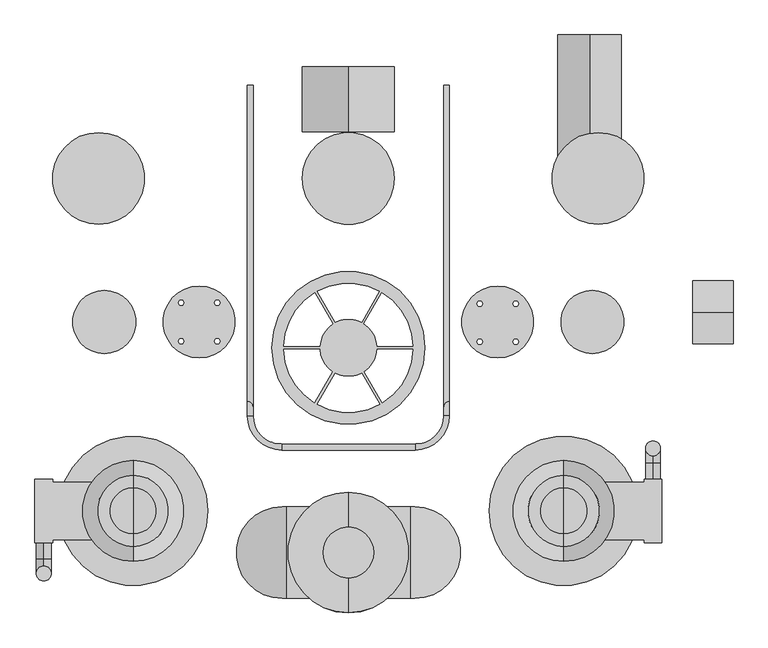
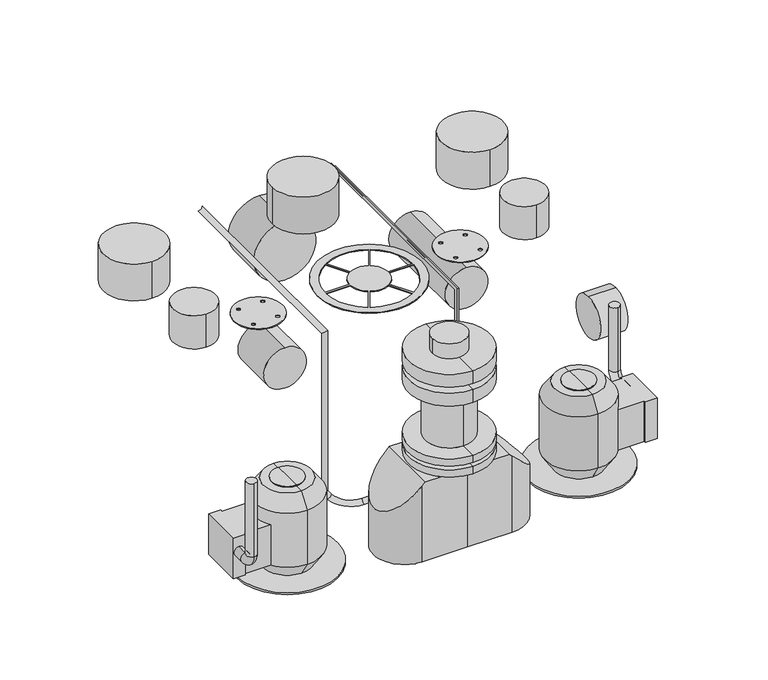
"""IFC4 building model written with IfcOpenShell, lengths in millimetres: unitary equipment geometry, ME_PE_UN_Muli Nova DDP_ACO : Muli-Nova DDP1.1."""

from ifc_helpers import new_model, si_unit, point, frame, frame_2d, origin, place, context, project, spatial, polyline, circle_curve, ellipse_curve, trimmed, segment, composite_curve, outline, extrude, source, transform, mapped, element, save
from ifc_brep_helpers import plane_surface, cylinder_surface, revolved_surface, advanced_brep


def unitary_equipment_b6e841b5(model_context):
    return source(origin(), model_context, "Body", "SolidModel", [
        extrude(outline(composite_curve([segment(trimmed(circle_curve(frame_2d((300.0, 420.0)), 55.0), [point((245.0, 420.0))], [point((355.0, 420.0))], False, "CARTESIAN"), True, "CONTINUOUS"), segment(trimmed(circle_curve(frame_2d((300.0, 420.0)), 55.0), [point((355.0, 420.0))], [point((245.0, 420.0))], False, "CARTESIAN"), True, "CONTINUOUS")], self_intersect=False)), frame((0.0, 315.5, 0.0), z_axis=(0.0, 1.0, 0.0), x_axis=(0.0, 0.0, 1.0)), (0.0, 0.0, 1.0), 250.0),
        extrude(outline(composite_curve([segment(trimmed(circle_curve(frame_2d((0.0, -336.0)), 44.0), [point((-44.0, -336.0))], [point((44.0, -336.0))], False, "CARTESIAN"), True, "CONTINUOUS"), segment(trimmed(circle_curve(frame_2d((0.0, -336.0)), 44.0), [point((44.0, -336.0))], [point((-44.0, -336.0))], False, "CARTESIAN"), True, "CONTINUOUS")], self_intersect=False)), frame((0.0, 0.0, 680.0), z_axis=(0.0, 0.0, 1.0), x_axis=(1.0, 0.0, 0.0)), (0.0, 0.0, 1.0), 40.3829898),
        extrude(outline(composite_curve([segment(trimmed(circle_curve(frame_2d((82.5, 300.0)), 55.0), [point((82.5, 245.0))], [point((82.5, 355.0))], False, "CARTESIAN"), True, "CONTINUOUS"), segment(trimmed(circle_curve(frame_2d((82.5, 300.0)), 55.0), [point((82.5, 355.0))], [point((82.5, 245.0))], False, "CARTESIAN"), True, "CONTINUOUS")], self_intersect=False)), frame((600.0, 0.0, 0.0), z_axis=(1.0, 0.0, 0.0), x_axis=(0.0, 1.0, 0.0)), (0.0, 0.0, 1.0), 70.0),
        advanced_brep(
        [(-68.0073525, -416.0, 400.0), (-68.0073525, -256.0, 400.0), (-107.6511579, -256.0, 400.0), (-107.6511579, -416.0, 400.0), (68.0073525, -256.0, 400.0), (68.0073525, -416.0, 400.0), (107.6511579, -416.0, 400.0), (107.6511579, -256.0, 400.0), (-115.2927384, -416.0, 185.0), (-115.2927384, -256.0, 185.0), (0.0, -256.0, 185.0), (115.2927384, -256.0, 185.0), (115.2927384, -416.0, 185.0), (0.0, -416.0, 185.0), (0.0, -231.0, 645.0), (0.0, -441.0, 645.0), (0.0, -441.0, 680.0), (0.0, -231.0, 680.0), (0.0, -260.5, 645.0), (0.0, -411.5, 645.0), (0.0, -260.5, 629.0), (0.0, -411.5, 629.0), (0.0, -231.0, 629.0), (0.0, -441.0, 629.0), (0.0, -231.0, 594.0), (0.0, -441.0, 594.0), (0.0, -273.5, 594.0), (0.0, -398.5, 594.0), (0.0, -273.5, 450.0), (0.0, -398.5, 450.0), (0.0, -231.0, 450.0), (0.0, -441.0, 450.0), (0.0, -231.0, 430.0), (0.0, -441.0, 430.0), (0.0, -273.5, 430.0), (0.0, -398.5, 430.0), (0.0, -273.5, 420.0), (0.0, -398.5, 420.0), (0.0, -231.0, 420.0), (0.0, -441.0, 420.0), (0.0, -231.0, 400.0), (0.0, -441.0, 400.0), (0.0, -416.0, 400.0), (0.0, -256.0, 400.0), (0.0, -336.0, 680.0), (-115.2927384, -416.0, 392.3584195), (-115.2927384, -256.0, 392.3584195), (115.2927384, -416.0, 392.3584195), (115.2927384, -256.0, 392.3584195)],
        [
            (0, 1, circle_curve(frame((0.0, -336.0, 400.0), z_axis=(0.0, 0.0, -1.0), x_axis=(0.0, -1.0, 0.0)), 105.0)),
            (1, 2),
            (2, 3),
            (3, 0),
            (4, 5, circle_curve(frame((0.0, -336.0, 400.0), z_axis=(0.0, 0.0, -1.0), x_axis=(0.0, -1.0, 0.0)), 105.0)),
            (5, 6),
            (6, 7),
            (7, 4),
            (8, 9, circle_curve(frame((-115.2927384, -336.0, 185.0), z_axis=(0.0, 0.0, -1.0), x_axis=(-1.0, 0.0, 0.0)), 80.0)),
            (9, 10),
            (10, 11),
            (11, 12, circle_curve(frame((115.2927384, -336.0, 185.0), z_axis=(0.0, 0.0, -1.0), x_axis=(-1.0, 0.0, 0.0)), 80.0)),
            (12, 13),
            (13, 8),
            (14, 15, circle_curve(frame((0.0, -336.0, 645.0), z_axis=(0.0, 0.0, 1.0), x_axis=(0.0, -1.0, 0.0)), 105.0)),
            (15, 16),
            (16, 17, circle_curve(frame((0.0, -336.0, 680.0), z_axis=(0.0, 0.0, -1.0), x_axis=(0.0, -1.0, 0.0)), 105.0)),
            (17, 14),
            (15, 14, circle_curve(frame((0.0, -336.0, 645.0), z_axis=(0.0, 0.0, 1.0), x_axis=(0.0, -1.0, 0.0)), 105.0)),
            (17, 16, circle_curve(frame((0.0, -336.0, 680.0), z_axis=(0.0, 0.0, -1.0), x_axis=(0.0, -1.0, 0.0)), 105.0)),
            (14, 18),
            (18, 19, circle_curve(frame((0.0, -336.0, 645.0), z_axis=(0.0, 0.0, 1.0), x_axis=(0.0, -1.0, 0.0)), 75.5)),
            (19, 15),
            (19, 18, circle_curve(frame((0.0, -336.0, 645.0), z_axis=(0.0, 0.0, 1.0), x_axis=(0.0, -1.0, 0.0)), 75.5)),
            (18, 20),
            (20, 21, circle_curve(frame((0.0, -336.0, 629.0), z_axis=(0.0, 0.0, 1.0), x_axis=(0.0, -1.0, 0.0)), 75.5)),
            (21, 19),
            (21, 20, circle_curve(frame((0.0, -336.0, 629.0), z_axis=(0.0, 0.0, 1.0), x_axis=(0.0, -1.0, 0.0)), 75.5)),
            (20, 22),
            (22, 23, circle_curve(frame((0.0, -336.0, 629.0), z_axis=(0.0, 0.0, 1.0), x_axis=(0.0, -1.0, 0.0)), 105.0)),
            (23, 21),
            (23, 22, circle_curve(frame((0.0, -336.0, 629.0), z_axis=(0.0, 0.0, 1.0), x_axis=(0.0, -1.0, 0.0)), 105.0)),
            (22, 24),
            (24, 25, circle_curve(frame((0.0, -336.0, 594.0), z_axis=(0.0, 0.0, 1.0), x_axis=(0.0, -1.0, 0.0)), 105.0)),
            (25, 23),
            (25, 24, circle_curve(frame((0.0, -336.0, 594.0), z_axis=(0.0, 0.0, 1.0), x_axis=(0.0, -1.0, 0.0)), 105.0)),
            (24, 26),
            (26, 27, circle_curve(frame((0.0, -336.0, 594.0), z_axis=(0.0, 0.0, 1.0), x_axis=(0.0, -1.0, 0.0)), 62.5)),
            (27, 25),
            (27, 26, circle_curve(frame((0.0, -336.0, 594.0), z_axis=(0.0, 0.0, 1.0), x_axis=(0.0, -1.0, 0.0)), 62.5)),
            (26, 28),
            (28, 29, circle_curve(frame((0.0, -336.0, 450.0), z_axis=(0.0, 0.0, 1.0), x_axis=(0.0, -1.0, 0.0)), 62.5)),
            (29, 27),
            (29, 28, circle_curve(frame((0.0, -336.0, 450.0), z_axis=(0.0, 0.0, 1.0), x_axis=(0.0, -1.0, 0.0)), 62.5)),
            (28, 30),
            (30, 31, circle_curve(frame((0.0, -336.0, 450.0), z_axis=(0.0, 0.0, 1.0), x_axis=(0.0, -1.0, 0.0)), 105.0)),
            (31, 29),
            (31, 30, circle_curve(frame((0.0, -336.0, 450.0), z_axis=(0.0, 0.0, 1.0), x_axis=(0.0, -1.0, 0.0)), 105.0)),
            (30, 32),
            (32, 33, circle_curve(frame((0.0, -336.0, 430.0), z_axis=(0.0, 0.0, 1.0), x_axis=(0.0, -1.0, 0.0)), 105.0)),
            (33, 31),
            (33, 32, circle_curve(frame((0.0, -336.0, 430.0), z_axis=(0.0, 0.0, 1.0), x_axis=(0.0, -1.0, 0.0)), 105.0)),
            (32, 34),
            (34, 35, circle_curve(frame((0.0, -336.0, 430.0), z_axis=(0.0, 0.0, 1.0), x_axis=(0.0, -1.0, 0.0)), 62.5)),
            (35, 33),
            (35, 34, circle_curve(frame((0.0, -336.0, 430.0), z_axis=(0.0, 0.0, 1.0), x_axis=(0.0, -1.0, 0.0)), 62.5)),
            (34, 36),
            (36, 37, circle_curve(frame((0.0, -336.0, 420.0), z_axis=(0.0, 0.0, 1.0), x_axis=(0.0, -1.0, 0.0)), 62.5)),
            (37, 35),
            (37, 36, circle_curve(frame((0.0, -336.0, 420.0), z_axis=(0.0, 0.0, 1.0), x_axis=(0.0, -1.0, 0.0)), 62.5)),
            (36, 38),
            (38, 39, circle_curve(frame((0.0, -336.0, 420.0), z_axis=(0.0, 0.0, 1.0), x_axis=(0.0, -1.0, 0.0)), 105.0)),
            (39, 37),
            (39, 38, circle_curve(frame((0.0, -336.0, 420.0), z_axis=(0.0, 0.0, 1.0), x_axis=(0.0, -1.0, 0.0)), 105.0)),
            (38, 40),
            (40, 1, circle_curve(frame((0.0, -336.0, 400.0), z_axis=(0.0, 0.0, 1.0), x_axis=(0.0, -1.0, 0.0)), 105.0)),
            (0, 41, circle_curve(frame((0.0, -336.0, 400.0), z_axis=(0.0, 0.0, 1.0), x_axis=(0.0, -1.0, 0.0)), 105.0)),
            (41, 39),
            (41, 5, circle_curve(frame((0.0, -336.0, 400.0), z_axis=(0.0, 0.0, 1.0), x_axis=(0.0, -1.0, 0.0)), 105.0)),
            (4, 40, circle_curve(frame((0.0, -336.0, 400.0), z_axis=(0.0, 0.0, 1.0), x_axis=(0.0, -1.0, 0.0)), 105.0)),
            (0, 42),
            (42, 41),
            (40, 43),
            (43, 1),
            (4, 43),
            (42, 5),
            (16, 44),
            (44, 17),
            (13, 42),
            (3, 45),
            (45, 8),
            (9, 46),
            (46, 2),
            (43, 10),
            (45, 46, ellipse_curve(frame((-115.2927384, -336.0, 392.3584195), z_axis=(0.7071067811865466, 0.0, -0.7071067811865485), x_axis=(0.7071067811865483, 0.0, 0.7071067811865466)), 113.137085, 80.0)),
            (12, 47),
            (47, 6),
            (11, 48),
            (48, 47, ellipse_curve(frame((115.2927384, -336.0, 392.3584195), z_axis=(-0.7071067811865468, 0.0, -0.7071067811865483), x_axis=(-0.7071067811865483, 0.0, 0.7071067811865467)), 113.137085, 80.0)),
            (7, 48),
        ],
        [
            plane_surface(frame((-137.7927384, -416.0, 400.0), z_axis=(0.0, 0.0, 1.0), x_axis=(1.0, 0.0, 0.0))),
            plane_surface(frame((-137.7927384, -416.0, 185.0), z_axis=(0.0, 0.0, -1.0), x_axis=(-1.0, 0.0, 0.0))),
            cylinder_surface(frame((0.0, -336.0, 585.0), z_axis=(0.0, 0.0, -1.0), x_axis=(0.0, -1.0, 0.0)), 105.0),
            plane_surface(frame((0.0, -336.0, 645.0), z_axis=(0.0, 0.0, -1.0), x_axis=(0.0, -1.0, 0.0))),
            cylinder_surface(frame((0.0, -336.0, 585.0), z_axis=(0.0, 0.0, -1.0), x_axis=(0.0, -1.0, 0.0)), 75.5),
            plane_surface(frame((0.0, -336.0, 629.0), z_axis=(0.0, 0.0, 1.0), x_axis=(0.0, -1.0, 0.0))),
            plane_surface(frame((0.0, -336.0, 594.0), z_axis=(0.0, 0.0, -1.0), x_axis=(0.0, -1.0, 0.0))),
            cylinder_surface(frame((0.0, -336.0, 585.0), z_axis=(0.0, 0.0, -1.0), x_axis=(0.0, -1.0, 0.0)), 62.5),
            plane_surface(frame((0.0, -336.0, 450.0), z_axis=(0.0, 0.0, 1.0), x_axis=(0.0, -1.0, 0.0))),
            plane_surface(frame((0.0, -336.0, 430.0), z_axis=(0.0, 0.0, -1.0), x_axis=(0.0, -1.0, 0.0))),
            plane_surface(frame((0.0, -336.0, 420.0), z_axis=(0.0, 0.0, 1.0), x_axis=(0.0, -1.0, 0.0))),
            plane_surface(frame((0.0, -336.0, 400.0), z_axis=(0.0, 0.0, -1.0), x_axis=(0.0, -1.0, 0.0))),
            plane_surface(frame((0.0, -336.0, 680.0), z_axis=(0.0, 0.0, 1.0), x_axis=(0.0, -1.0, 0.0))),
            plane_surface(frame((-115.2927384, -416.0, 400.0), z_axis=(0.0, -1.0, 0.0), x_axis=(0.0, 0.0, -1.0))),
            plane_surface(frame((0.0, -256.0, 400.0), z_axis=(0.0, 1.0, 0.0), x_axis=(0.0, 0.0, -1.0))),
            cylinder_surface(frame((-115.2927384, -336.0, 185.0), z_axis=(0.0, 0.0, 1.0), x_axis=(-1.0, 0.0, 0.0)), 80.0),
            plane_surface(frame((-236.25, -454.7656587, 271.4011579), z_axis=(-0.7071067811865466, 0.0, 0.7071067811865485), x_axis=(0.0, 1.0, 0.0))),
            plane_surface(frame((0.0, -416.0, 400.0), z_axis=(0.0, -1.0, 0.0), x_axis=(0.0, 0.0, -1.0))),
            cylinder_surface(frame((115.2927384, -336.0, 185.0), z_axis=(0.0, 0.0, 1.0), x_axis=(-1.0, 0.0, 0.0)), 80.0),
            plane_surface(frame((115.2927384, -256.0, 400.0), z_axis=(0.0, 1.0, 0.0), x_axis=(0.0, 0.0, -1.0))),
            plane_surface(frame((107.6511579, -454.7656587, 400.0), z_axis=(0.7071067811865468, 0.0, 0.7071067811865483), x_axis=(0.0, 1.0, 0.0))),
        ],
        [
            (0, [[1, 2, 3, 4]]),
            (0, [[5, 6, 7, 8]]),
            (1, [[9, 10, 11, 12, 13, 14]]),
            (2, [[15, 16, 17, 18]]),
            (2, [[-16, 19, -18, 20]]),
            (3, [[-15, 21, 22, 23]]),
            (3, [[-19, -23, 24, -21]]),
            (4, [[-22, 25, 26, 27]]),
            (4, [[-24, -27, 28, -25]]),
            (5, [[-26, 29, 30, 31]]),
            (5, [[-28, -31, 32, -29]]),
            (2, [[-30, 33, 34, 35]]),
            (2, [[-32, -35, 36, -33]]),
            (6, [[-34, 37, 38, 39]]),
            (6, [[-36, -39, 40, -37]]),
            (7, [[-38, 41, 42, 43]]),
            (7, [[-40, -43, 44, -41]]),
            (8, [[-42, 45, 46, 47]]),
            (8, [[-44, -47, 48, -45]]),
            (2, [[-46, 49, 50, 51]]),
            (2, [[-48, -51, 52, -49]]),
            (9, [[-50, 53, 54, 55]]),
            (9, [[-52, -55, 56, -53]]),
            (7, [[-54, 57, 58, 59]]),
            (7, [[-56, -59, 60, -57]]),
            (10, [[-58, 61, 62, 63]]),
            (10, [[-60, -63, 64, -61]]),
            (2, [[-62, 65, 66, -1, 67, 68]]),
            (2, [[-64, -68, 69, -5, 70, -65]]),
            (11, [[-67, 71, 72]]),
            (11, [[73, 74, -66]]),
            (11, [[-70, 75, -73]]),
            (11, [[-72, 76, -69]]),
            (12, [[-17, 77, 78]]),
            (12, [[-20, -78, -77]]),
            (13, [[-14, 79, -71, -4, 80, 81]]),
            (14, [[-10, 82, 83, -2, -74, 84]]),
            (15, [[-9, -81, 85, -82]]),
            (16, [[-3, -83, -85, -80]]),
            (17, [[-13, 86, 87, -6, -76, -79]]),
            (18, [[-12, 88, 89, -86]]),
            (19, [[-11, -84, -75, -8, 90, -88]]),
            (20, [[-7, -87, -89, -90]]),
        ],
    ),
        advanced_brep(
        [(-530.5, -318.5, 313.293866), (-530.5, -318.5, 287.293866), (-530.5, -346.5, 313.293866), (-530.5, -346.5, 287.293866), (-530.5, -359.5, 525.293866), (-530.5, -385.5, 525.293866), (-530.5, -385.5, 326.293866), (-530.5, -359.5, 326.293866)],
        [
            (0, 1, circle_curve(frame((-530.5, -318.5, 300.293866), z_axis=(0.0, 1.0, 0.0), x_axis=(0.0, 0.0, -1.0)), 13.0)),
            (1, 0, circle_curve(frame((-530.5, -318.5, 300.293866), z_axis=(0.0, 1.0, 0.0), x_axis=(0.0, 0.0, -1.0)), 13.0)),
            (0, 2),
            (2, 3, circle_curve(frame((-530.5, -346.5, 300.293866), z_axis=(0.0, 1.0, 0.0), x_axis=(0.0, 0.0, -1.0)), 13.0)),
            (3, 1),
            (3, 2, circle_curve(frame((-530.5, -346.5, 300.293866), z_axis=(0.0, 1.0, 0.0), x_axis=(0.0, 0.0, -1.0)), 13.0)),
            (4, 5, circle_curve(frame((-530.5, -372.5, 525.293866), z_axis=(0.0, 0.0, 1.0), x_axis=(0.0, -1.0, 0.0)), 13.0)),
            (5, 4, circle_curve(frame((-530.5, -372.5, 525.293866), z_axis=(0.0, 0.0, 1.0), x_axis=(0.0, -1.0, 0.0)), 13.0)),
            (6, 7, circle_curve(frame((-530.5, -372.5, 326.293866), z_axis=(0.0, 0.0, 1.0), x_axis=(0.0, -1.0, 0.0)), 13.0)),
            (7, 4),
            (5, 6),
            (7, 6, circle_curve(frame((-530.5, -372.5, 326.293866), z_axis=(0.0, 0.0, 1.0), x_axis=(0.0, -1.0, 0.0)), 13.0)),
            (6, 3, circle_curve(frame((-530.5, -346.5, 326.293866), z_axis=(1.0, 0.0, 0.0), x_axis=(0.0, 0.0, -1.0)), 39.0)),
            (2, 7, circle_curve(frame((-530.5, -346.5, 326.293866), z_axis=(-1.0, 0.0, 0.0), x_axis=(0.0, 0.0, -1.0)), 13.0)),
        ],
        [
            plane_surface(frame((-515.0, -318.5, 300.293866), z_axis=(0.0, 1.0, 0.0), x_axis=(1.0, 0.0, 0.0))),
            cylinder_surface(frame((-530.5, -318.5, 300.293866), z_axis=(0.0, 1.0, 0.0), x_axis=(0.0, 0.0, -1.0)), 13.0),
            plane_surface(frame((-515.0, -372.5, 525.293866), z_axis=(0.0, 0.0, 1.0), x_axis=(1.0, 0.0, 0.0))),
            cylinder_surface(frame((-530.5, -372.5, 326.293866), z_axis=(0.0, 0.0, -1.0), x_axis=(0.0, -1.0, 0.0)), 13.0),
            revolved_surface(trimmed(ellipse_curve(frame((-530.5, -346.5, 300.293866), z_axis=(0.0, 1.0, 0.0), x_axis=(0.0, 0.0, -1.0)), 13.0, 13.0), [point((-530.5, -346.5, 313.293866))], [point((-530.5, -346.5, 287.293866))], True, "CARTESIAN"), (-515.0, -346.5, 326.293866), (-1.0, 0.0, 0.0)),
            revolved_surface(trimmed(ellipse_curve(frame((-530.5, -346.5, 300.293866), z_axis=(0.0, 1.0, 0.0), x_axis=(0.0, 0.0, -1.0)), 13.0, 13.0), [point((-530.5, -346.5, 287.293866))], [point((-530.5, -346.5, 313.293866))], True, "CARTESIAN"), (-515.0, -346.5, 326.293866), (-1.0, 0.0, 0.0)),
        ],
        [
            (0, [[1, 2]]),
            (1, [[-1, 3, 4, 5]]),
            (1, [[-2, -5, 6, -3]]),
            (2, [[7, 8]]),
            (3, [[9, 10, -8, 11]]),
            (3, [[12, -11, -7, -10]]),
            (4, [[13, -4, 14, -9]]),
            (5, [[-14, -6, -13, -12]]),
        ],
    ),
        advanced_brep(
        [(530.5, -208.5, 313.293866), (530.5, -208.5, 287.293866), (530.5, -180.5, 313.293866), (530.5, -180.5, 287.293866), (530.5, -167.5, 500.293866), (530.5, -141.5, 500.293866), (530.5, -141.5, 326.293866), (530.5, -167.5, 326.293866)],
        [
            (0, 1, circle_curve(frame((530.5, -208.5, 300.293866), z_axis=(0.0, -1.0, 0.0), x_axis=(0.0, 0.0, -1.0)), 13.0)),
            (1, 0, circle_curve(frame((530.5, -208.5, 300.293866), z_axis=(0.0, -1.0, 0.0), x_axis=(0.0, 0.0, -1.0)), 13.0)),
            (0, 2),
            (2, 3, circle_curve(frame((530.5, -180.5, 300.293866), z_axis=(0.0, -1.0, 0.0), x_axis=(0.0, 0.0, -1.0)), 13.0)),
            (3, 1),
            (3, 2, circle_curve(frame((530.5, -180.5, 300.293866), z_axis=(0.0, -1.0, 0.0), x_axis=(0.0, 0.0, -1.0)), 13.0)),
            (4, 5, circle_curve(frame((530.5, -154.5, 500.293866), z_axis=(0.0, 0.0, 1.0), x_axis=(0.0, 1.0, 0.0)), 13.0)),
            (5, 4, circle_curve(frame((530.5, -154.5, 500.293866), z_axis=(0.0, 0.0, 1.0), x_axis=(0.0, 1.0, 0.0)), 13.0)),
            (6, 7, circle_curve(frame((530.5, -154.5, 326.293866), z_axis=(0.0, 0.0, 1.0), x_axis=(0.0, 1.0, 0.0)), 13.0)),
            (7, 4),
            (5, 6),
            (7, 6, circle_curve(frame((530.5, -154.5, 326.293866), z_axis=(0.0, 0.0, 1.0), x_axis=(0.0, 1.0, 0.0)), 13.0)),
            (6, 3, circle_curve(frame((530.5, -180.5, 326.293866), z_axis=(-1.0, 0.0, 0.0), x_axis=(0.0, 0.0, -1.0)), 39.0)),
            (2, 7, circle_curve(frame((530.5, -180.5, 326.293866), z_axis=(1.0, 0.0, 0.0), x_axis=(0.0, 0.0, -1.0)), 13.0)),
        ],
        [
            plane_surface(frame((515.0, -208.5, 300.293866), z_axis=(0.0, -1.0, 0.0), x_axis=(-1.0, 0.0, 0.0))),
            cylinder_surface(frame((530.5, -208.5, 300.293866), z_axis=(0.0, -1.0, 0.0), x_axis=(0.0, 0.0, -1.0)), 13.0),
            plane_surface(frame((515.0, -154.5, 500.293866), z_axis=(0.0, 0.0, 1.0), x_axis=(-1.0, 0.0, 0.0))),
            cylinder_surface(frame((530.5, -154.5, 326.293866), z_axis=(0.0, 0.0, -1.0), x_axis=(0.0, 1.0, 0.0)), 13.0),
            revolved_surface(trimmed(ellipse_curve(frame((530.5, -180.5, 300.293866), z_axis=(0.0, -1.0, 0.0), x_axis=(0.0, 0.0, -1.0)), 13.0, 13.0), [point((530.5, -180.5, 313.293866))], [point((530.5, -180.5, 287.293866))], True, "CARTESIAN"), (515.0, -180.5, 326.293866), (1.0, 0.0, 0.0)),
            revolved_surface(trimmed(ellipse_curve(frame((530.5, -180.5, 300.293866), z_axis=(0.0, -1.0, 0.0), x_axis=(0.0, 0.0, -1.0)), 13.0, 13.0), [point((530.5, -180.5, 287.293866))], [point((530.5, -180.5, 313.293866))], True, "CARTESIAN"), (515.0, -180.5, 326.293866), (1.0, 0.0, 0.0)),
        ],
        [
            (0, [[1, 2]]),
            (1, [[-1, 3, 4, 5]]),
            (1, [[-2, -5, 6, -3]]),
            (2, [[7, 8]]),
            (3, [[9, 10, -8, 11]]),
            (3, [[12, -11, -7, -10]]),
            (4, [[13, -4, 14, -9]]),
            (5, [[-14, -6, -13, -12]]),
        ],
    ),
        extrude(outline(polyline([(515.0, -213.5), (515.0, -208.5), (546.0, -208.5), (546.0, -318.5), (515.0, -318.5), (515.0, -313.5), (375.0, -313.5), (375.0, -213.5), (515.0, -213.5)])), frame((0.0, 0.0, 230.0), z_axis=(0.0, 0.0, 1.0), x_axis=(1.0, 0.0, 0.0)), (0.0, 0.0, 1.0), 110.293866),
        extrude(outline(polyline([(-375.0, -213.5), (-375.0, -313.5), (-515.0, -313.5), (-515.0, -318.5), (-546.0, -318.5), (-546.0, -208.5), (-515.0, -208.5), (-515.0, -213.5), (-375.0, -213.5)])), frame((0.0, 0.0, 230.0), z_axis=(0.0, 0.0, 1.0), x_axis=(1.0, 0.0, 0.0)), (0.0, 0.0, 1.0), 110.293866),
        advanced_brep(
        [(-375.0, -223.5, 417.0), (-375.0, -303.5, 417.0), (-375.0, -263.5, 417.0), (-245.0, -263.5, 185.0), (-505.0, -263.5, 185.0), (-375.0, -351.5, 230.0), (-375.0, -175.5, 230.0), (-375.0, -201.7222222, 190.0), (-375.0, -325.2777778, 190.0), (-375.0, -351.5, 377.0), (-375.0, -175.5, 377.0), (-375.0, -325.5, 414.0), (-375.0, -201.5, 414.0), (-375.0, -303.5, 414.0), (-375.0, -223.5, 414.0), (-245.0, -263.5, 190.0), (-505.0, -263.5, 190.0)],
        [
            (0, 1, circle_curve(frame((-375.0, -263.5, 417.0), z_axis=(0.0, 0.0, 1.0), x_axis=(0.0, -1.0, 0.0)), 40.0)),
            (1, 2),
            (2, 0),
            (1, 0, circle_curve(frame((-375.0, -263.5, 417.0), z_axis=(0.0, 0.0, 1.0), x_axis=(0.0, -1.0, 0.0)), 40.0)),
            (3, 4, circle_curve(frame((-375.0, -263.5, 185.0), z_axis=(0.0, 0.0, -1.0), x_axis=(-1.0, 0.0, 0.0)), 130.0)),
            (4, 3, circle_curve(frame((-375.0, -263.5, 185.0), z_axis=(0.0, 0.0, -1.0), x_axis=(-1.0, 0.0, 0.0)), 130.0)),
            (5, 6, circle_curve(frame((-375.0, -263.5, 230.0), z_axis=(0.0, 0.0, -1.0), x_axis=(0.0, -1.0, 0.0)), 88.0)),
            (6, 7),
            (7, 8, circle_curve(frame((-375.0, -263.5, 190.0), z_axis=(0.0, 0.0, 1.0), x_axis=(0.0, -1.0, 0.0)), 61.7777778)),
            (8, 5),
            (6, 5, circle_curve(frame((-375.0, -263.5, 230.0), z_axis=(0.0, 0.0, -1.0), x_axis=(0.0, -1.0, 0.0)), 88.0)),
            (8, 7, circle_curve(frame((-375.0, -263.5, 190.0), z_axis=(0.0, 0.0, 1.0), x_axis=(0.0, -1.0, 0.0)), 61.7777778)),
            (5, 9),
            (9, 10, circle_curve(frame((-375.0, -263.5, 377.0), z_axis=(0.0, 0.0, -1.0), x_axis=(0.0, -1.0, 0.0)), 88.0)),
            (10, 6),
            (10, 9, circle_curve(frame((-375.0, -263.5, 377.0), z_axis=(0.0, 0.0, -1.0), x_axis=(0.0, -1.0, 0.0)), 88.0)),
            (9, 11),
            (11, 12, circle_curve(frame((-375.0, -263.5, 414.0), z_axis=(0.0, 0.0, -1.0), x_axis=(0.0, -1.0, 0.0)), 62.0)),
            (12, 10),
            (12, 11, circle_curve(frame((-375.0, -263.5, 414.0), z_axis=(0.0, 0.0, -1.0), x_axis=(0.0, -1.0, 0.0)), 62.0)),
            (11, 13),
            (13, 14, circle_curve(frame((-375.0, -263.5, 414.0), z_axis=(0.0, 0.0, -1.0), x_axis=(0.0, -1.0, 0.0)), 40.0)),
            (14, 12),
            (14, 13, circle_curve(frame((-375.0, -263.5, 414.0), z_axis=(0.0, 0.0, -1.0), x_axis=(0.0, -1.0, 0.0)), 40.0)),
            (0, 14),
            (13, 1),
            (15, 16, circle_curve(frame((-375.0, -263.5, 190.0), z_axis=(0.0, 0.0, 1.0), x_axis=(-1.0, 0.0, 0.0)), 130.0)),
            (16, 15, circle_curve(frame((-375.0, -263.5, 190.0), z_axis=(0.0, 0.0, 1.0), x_axis=(-1.0, 0.0, 0.0)), 130.0)),
            (16, 4),
            (3, 15),
        ],
        [
            plane_surface(frame((-375.0, -263.5, 417.0), z_axis=(0.0, 0.0, 1.0), x_axis=(0.0, -1.0, 0.0))),
            plane_surface(frame((-375.0, -263.5, 185.0), z_axis=(0.0, 0.0, -1.0), x_axis=(0.0, -1.0, 0.0))),
            revolved_surface(polyline([(-375.0, -351.5, 230.0), (-375.0, -322.0, 185.0)]), (-375.0, -263.5, 610.0), (0.0, 0.0, -1.0)),
            cylinder_surface(frame((-375.0, -263.5, 610.0), z_axis=(0.0, 0.0, -1.0), x_axis=(0.0, -1.0, 0.0)), 88.0),
            revolved_surface(polyline([(-375.0, -325.5, 414.0), (-375.0, -351.5, 377.0)]), (-375.0, -263.5, 610.0), (0.0, 0.0, -1.0)),
            plane_surface(frame((-375.0, -263.5, 414.0), z_axis=(0.0, 0.0, 1.0), x_axis=(0.0, -1.0, 0.0))),
            cylinder_surface(frame((-375.0, -263.5, 610.0), z_axis=(0.0, 0.0, -1.0), x_axis=(0.0, -1.0, 0.0)), 40.0),
            plane_surface(frame((-505.0, -263.5, 190.0), z_axis=(0.0, 0.0, 1.0), x_axis=(0.0, -1.0, 0.0))),
            cylinder_surface(frame((-375.0, -263.5, 185.0), z_axis=(0.0, 0.0, 1.0), x_axis=(-1.0, 0.0, 0.0)), 130.0),
        ],
        [
            (0, [[1, 2, 3]]),
            (0, [[-2, 4, -3]]),
            (1, [[5, 6]]),
            (2, [[7, 8, 9, 10]]),
            (2, [[11, -10, 12, -8]]),
            (3, [[-7, 13, 14, 15]]),
            (3, [[-11, -15, 16, -13]]),
            (4, [[-14, 17, 18, 19]]),
            (4, [[-16, -19, 20, -17]]),
            (5, [[-18, 21, 22, 23]]),
            (5, [[-20, -23, 24, -21]]),
            (6, [[-1, 25, -22, 26]]),
            (6, [[-4, -26, -24, -25]]),
            (7, [[27, 28], [-9, -12]]),
            (8, [[-28, 29, -5, 30]]),
            (8, [[-27, -30, -6, -29]]),
        ],
    ),
        advanced_brep(
        [(505.0, -263.5, 185.0), (245.0, -263.5, 185.0), (505.0, -263.5, 190.0), (245.0, -263.5, 190.0), (375.0, -201.7222222, 190.0), (375.0, -325.2777778, 190.0), (375.0, -263.5, 417.0), (375.0, -303.5, 417.0), (375.0, -223.5, 417.0), (375.0, -175.5, 230.0), (375.0, -351.5, 230.0), (375.0, -175.5, 377.0), (375.0, -351.5, 377.0), (375.0, -201.5, 414.0), (375.0, -325.5, 414.0), (375.0, -223.5, 414.0), (375.0, -303.5, 414.0)],
        [
            (0, 1, circle_curve(frame((375.0, -263.5, 185.0), z_axis=(0.0, 0.0, -1.0), x_axis=(-1.0, 0.0, 0.0)), 130.0)),
            (1, 0, circle_curve(frame((375.0, -263.5, 185.0), z_axis=(0.0, 0.0, -1.0), x_axis=(-1.0, 0.0, 0.0)), 130.0)),
            (2, 3, circle_curve(frame((375.0, -263.5, 190.0), z_axis=(0.0, 0.0, 1.0), x_axis=(-1.0, 0.0, 0.0)), 130.0)),
            (3, 2, circle_curve(frame((375.0, -263.5, 190.0), z_axis=(0.0, 0.0, 1.0), x_axis=(-1.0, 0.0, 0.0)), 130.0)),
            (4, 5, circle_curve(frame((375.0, -263.5, 190.0), z_axis=(0.0, 0.0, -1.0), x_axis=(0.0, -1.0, 0.0)), 61.7777778)),
            (5, 4, circle_curve(frame((375.0, -263.5, 190.0), z_axis=(0.0, 0.0, -1.0), x_axis=(0.0, -1.0, 0.0)), 61.7777778)),
            (3, 1),
            (0, 2),
            (6, 7),
            (7, 8, circle_curve(frame((375.0, -263.5, 417.0), z_axis=(0.0, 0.0, 1.0), x_axis=(0.0, -1.0, 0.0)), 40.0)),
            (8, 6),
            (8, 7, circle_curve(frame((375.0, -263.5, 417.0), z_axis=(0.0, 0.0, 1.0), x_axis=(0.0, -1.0, 0.0)), 40.0)),
            (9, 10, circle_curve(frame((375.0, -263.5, 230.0), z_axis=(0.0, 0.0, -1.0), x_axis=(0.0, -1.0, 0.0)), 88.0)),
            (10, 5),
            (4, 9),
            (10, 9, circle_curve(frame((375.0, -263.5, 230.0), z_axis=(0.0, 0.0, -1.0), x_axis=(0.0, -1.0, 0.0)), 88.0)),
            (9, 11),
            (11, 12, circle_curve(frame((375.0, -263.5, 377.0), z_axis=(0.0, 0.0, -1.0), x_axis=(0.0, -1.0, 0.0)), 88.0)),
            (12, 10),
            (12, 11, circle_curve(frame((375.0, -263.5, 377.0), z_axis=(0.0, 0.0, -1.0), x_axis=(0.0, -1.0, 0.0)), 88.0)),
            (11, 13),
            (13, 14, circle_curve(frame((375.0, -263.5, 414.0), z_axis=(0.0, 0.0, -1.0), x_axis=(0.0, -1.0, 0.0)), 62.0)),
            (14, 12),
            (14, 13, circle_curve(frame((375.0, -263.5, 414.0), z_axis=(0.0, 0.0, -1.0), x_axis=(0.0, -1.0, 0.0)), 62.0)),
            (13, 15),
            (15, 16, circle_curve(frame((375.0, -263.5, 414.0), z_axis=(0.0, 0.0, -1.0), x_axis=(0.0, -1.0, 0.0)), 40.0)),
            (16, 14),
            (16, 15, circle_curve(frame((375.0, -263.5, 414.0), z_axis=(0.0, 0.0, -1.0), x_axis=(0.0, -1.0, 0.0)), 40.0)),
            (7, 16),
            (15, 8),
        ],
        [
            plane_surface(frame((-375.0, -263.5, 185.0), z_axis=(0.0, 0.0, -1.0), x_axis=(0.0, -1.0, 0.0))),
            plane_surface(frame((-505.0, -263.5, 190.0), z_axis=(0.0, 0.0, 1.0), x_axis=(0.0, -1.0, 0.0))),
            cylinder_surface(frame((375.0, -263.5, 185.0), z_axis=(0.0, 0.0, 1.0), x_axis=(-1.0, 0.0, 0.0)), 130.0),
            plane_surface(frame((375.0, -263.5, 417.0), z_axis=(0.0, 0.0, 1.0), x_axis=(0.0, -1.0, 0.0))),
            revolved_surface(polyline([(375.0, -322.0, 185.0), (375.0, -351.5, 230.0)]), (375.0, -263.5, 610.0), (0.0, 0.0, 1.0)),
            cylinder_surface(frame((375.0, -263.5, 610.0), z_axis=(0.0, 0.0, 1.0), x_axis=(0.0, -1.0, 0.0)), 88.0),
            revolved_surface(polyline([(375.0, -351.5, 377.0), (375.0, -325.5, 414.0)]), (375.0, -263.5, 610.0), (0.0, 0.0, 1.0)),
            plane_surface(frame((375.0, -263.5, 414.0), z_axis=(0.0, 0.0, 1.0), x_axis=(0.0, -1.0, 0.0))),
            cylinder_surface(frame((375.0, -263.5, 610.0), z_axis=(0.0, 0.0, 1.0), x_axis=(0.0, -1.0, 0.0)), 40.0),
        ],
        [
            (0, [[1, 2]]),
            (1, [[3, 4], [5, 6]]),
            (2, [[-4, 7, -1, 8]]),
            (2, [[-3, -8, -2, -7]]),
            (3, [[9, 10, 11]]),
            (3, [[-9, -11, 12]]),
            (4, [[13, 14, -5, 15]]),
            (4, [[16, -15, -6, -14]]),
            (5, [[-13, 17, 18, 19]]),
            (5, [[-16, -19, 20, -17]]),
            (6, [[-18, 21, 22, 23]]),
            (6, [[-20, -23, 24, -21]]),
            (7, [[-22, 25, 26, 27]]),
            (7, [[-24, -27, 28, -25]]),
            (8, [[-10, 29, -26, 30]]),
            (8, [[-12, -30, -28, -29]]),
        ],
    ),
        extrude(outline(composite_curve([segment(trimmed(circle_curve(frame_2d((0.0, 20.5)), 133.3), [point((133.3, 20.5))], [point((-133.3, 20.5))], False, "CARTESIAN"), True, "CONTINUOUS"), segment(trimmed(circle_curve(frame_2d((0.0, 20.5)), 133.3), [point((-133.3, 20.5))], [point((133.3, 20.5))], False, "CARTESIAN"), True, "CONTINUOUS")], self_intersect=False), holes=[composite_curve([segment(polyline([(49.9384685, 22.9797919), (112.4726662, 22.9797919)]), True, "CONTINUOUS"), segment(trimmed(circle_curve(frame_2d((0.0, 20.5)), 112.5), [point((112.4726662, 22.9797919))], [point((58.3838959, 116.6642902))], True, "CARTESIAN"), True, "CONTINUOUS"), segment(polyline([(58.3838959, 116.6642902), (27.116797, 62.5080864)]), True, "CONTINUOUS"), segment(trimmed(circle_curve(frame_2d((0.0, 20.5)), 50.0), [point((27.116797, 62.5080864))], [point((49.9384685, 22.9797919))], False, "CARTESIAN"), True, "CONTINUOUS")], self_intersect=False), composite_curve([segment(trimmed(circle_curve(frame_2d((0.0, 20.5)), 112.5), [point((-54.2977947, -78.0291809))], [point((54.2977947, -78.0291809))], True, "CARTESIAN"), True, "CONTINUOUS"), segment(polyline([(54.2977947, -78.0291809), (23.0338289, -23.8784038)]), True, "CONTINUOUS"), segment(trimmed(circle_curve(frame_2d((0.0, 20.5)), 50.0), [point((23.0338289, -23.8784038))], [point((-23.0338289, -23.8784038))], False, "CARTESIAN"), True, "CONTINUOUS"), segment(polyline([(-23.0338289, -23.8784038), (-54.2977947, -78.0291809)]), True, "CONTINUOUS")], self_intersect=False), composite_curve([segment(trimmed(circle_curve(frame_2d((0.0, 20.5)), 112.5), [point((-58.3838959, 116.6642902))], [point((-112.4726662, 22.9797919))], True, "CARTESIAN"), True, "CONTINUOUS"), segment(polyline([(-112.4726662, 22.9797919), (-49.9384685, 22.9797919)]), True, "CONTINUOUS"), segment(trimmed(circle_curve(frame_2d((0.0, 20.5)), 50.0), [point((-49.9384685, 22.9797919))], [point((-27.116797, 62.5080864))], False, "CARTESIAN"), True, "CONTINUOUS"), segment(polyline([(-27.116797, 62.5080864), (-58.3838959, 116.6642902)]), True, "CONTINUOUS")], self_intersect=False), composite_curve([segment(trimmed(circle_curve(frame_2d((0.0, 20.5)), 50.0), [point((49.9384685, 18.0202081))], [point((27.8579673, -21.0202801))], False, "CARTESIAN"), True, "CONTINUOUS"), segment(polyline([(27.8579673, -21.0202801), (59.1394899, -75.2014667)]), True, "CONTINUOUS"), segment(trimmed(circle_curve(frame_2d((0.0, 20.5)), 112.5), [point((59.1394899, -75.2014667))], [point((112.4726662, 18.0202081))], True, "CARTESIAN"), True, "CONTINUOUS"), segment(polyline([(112.4726662, 18.0202081), (49.9384685, 18.0202081)]), True, "CONTINUOUS")], self_intersect=False), composite_curve([segment(trimmed(circle_curve(frame_2d((0.0, 20.5)), 50.0), [point((-22.8216715, 64.9878783))], [point((22.8216715, 64.9878783))], False, "CARTESIAN"), True, "CONTINUOUS"), segment(polyline([(22.8216715, 64.9878783), (54.0887703, 119.1440821)]), True, "CONTINUOUS"), segment(trimmed(circle_curve(frame_2d((0.0, 20.5)), 112.5), [point((54.0887703, 119.1440821))], [point((-54.0887703, 119.1440821))], True, "CARTESIAN"), True, "CONTINUOUS"), segment(polyline([(-54.0887703, 119.1440821), (-22.8216715, 64.9878783)]), True, "CONTINUOUS")], self_intersect=False), composite_curve([segment(trimmed(circle_curve(frame_2d((0.0, 20.5)), 50.0), [point((-27.8579673, -21.0202801))], [point((-49.9384685, 18.0202081))], False, "CARTESIAN"), True, "CONTINUOUS"), segment(polyline([(-49.9384685, 18.0202081), (-112.4726662, 18.0202081)]), True, "CONTINUOUS"), segment(trimmed(circle_curve(frame_2d((0.0, 20.5)), 112.5), [point((-112.4726662, 18.0202081))], [point((-59.1394899, -75.2014667))], True, "CARTESIAN"), True, "CONTINUOUS"), segment(polyline([(-59.1394899, -75.2014667), (-27.8579673, -21.0202801)]), True, "CONTINUOUS")], self_intersect=False)]), frame((0.0, 0.0, 650.0), z_axis=(0.0, 0.0, 1.0), x_axis=(1.0, 0.0, 0.0)), (0.0, 0.0, 1.0), 2.0),
        extrude(outline(composite_curve([segment(trimmed(circle_curve(frame_2d((260.0, 65.5)), 62.5), [point((260.0, 3.0))], [point((260.0, 128.0))], False, "CARTESIAN"), True, "CONTINUOUS"), segment(trimmed(circle_curve(frame_2d((260.0, 65.5)), 62.5), [point((260.0, 128.0))], [point((260.0, 3.0))], False, "CARTESIAN"), True, "CONTINUOUS")], self_intersect=False), holes=[polyline([(288.8930284, 93.2427495), (293.8930284, 93.2427495), (296.3930284, 97.5728765), (293.8930284, 101.9030035), (288.8930284, 101.9030035), (286.3930284, 97.5728765), (288.8930284, 93.2427495)]), polyline([(231.1069716, 93.2427495), (233.6069716, 97.5728765), (231.1069716, 101.9030035), (226.1069716, 101.9030035), (223.6069716, 97.5728765), (226.1069716, 93.2427495), (231.1069716, 93.2427495)]), polyline([(288.8930284, 35.2572505), (286.3930284, 30.9271235), (288.8930284, 26.5969965), (293.8930284, 26.5969965), (296.3930284, 30.9271235), (293.8930284, 35.2572505), (288.8930284, 35.2572505)]), polyline([(231.1069716, 35.2572505), (226.1069716, 35.2572505), (223.6069716, 30.9271235), (226.1069716, 26.5969965), (231.1069716, 26.5969965), (233.6069716, 30.9271235), (231.1069716, 35.2572505)])]), frame((0.0, 0.0, 620.0), z_axis=(0.0, 0.0, 1.0), x_axis=(1.0, 0.0, 0.0)), (0.0, 0.0, 1.0), 2.0343517),
        extrude(outline(composite_curve([segment(trimmed(circle_curve(frame_2d((-260.0, 65.5)), 62.5), [point((-260.0, 128.0))], [point((-260.0, 3.0))], False, "CARTESIAN"), True, "CONTINUOUS"), segment(trimmed(circle_curve(frame_2d((-260.0, 65.5)), 62.5), [point((-260.0, 3.0))], [point((-260.0, 128.0))], False, "CARTESIAN"), True, "CONTINUOUS")], self_intersect=False), holes=[polyline([(-288.8930284, 94.4927495), (-286.3930284, 98.8228765), (-288.8930284, 103.1530035), (-293.8930284, 103.1530035), (-296.3930284, 98.8228765), (-293.8930284, 94.4927495), (-288.8930284, 94.4927495)]), polyline([(-231.1069716, 94.4927495), (-226.1069716, 94.4927495), (-223.6069716, 98.8228765), (-226.1069716, 103.1530035), (-231.1069716, 103.1530035), (-233.6069716, 98.8228765), (-231.1069716, 94.4927495)]), polyline([(-288.8930284, 36.5072505), (-293.8930284, 36.5072505), (-296.3930284, 32.1771235), (-293.8930284, 27.8469965), (-288.8930284, 27.8469965), (-286.3930284, 32.1771235), (-288.8930284, 36.5072505)]), polyline([(-231.1069716, 36.5072505), (-233.6069716, 32.1771235), (-231.1069716, 27.8469965), (-226.1069716, 27.8469965), (-223.6069716, 32.1771235), (-226.1069716, 36.5072505), (-231.1069716, 36.5072505)])]), frame((0.0, 0.0, 620.0), z_axis=(0.0, 0.0, 1.0), x_axis=(1.0, 0.0, 0.0)), (0.0, 0.0, 1.0), 2.0343517),
        extrude(outline(composite_curve([segment(trimmed(circle_curve(frame_2d((0.0, 315.5)), 80.0), [point((80.0, 315.5))], [point((-80.0, 315.5))], False, "CARTESIAN"), True, "CONTINUOUS"), segment(trimmed(circle_curve(frame_2d((0.0, 315.5)), 80.0), [point((-80.0, 315.5))], [point((80.0, 315.5))], False, "CARTESIAN"), True, "CONTINUOUS")], self_intersect=False)), frame((0.0, 0.0, 650.0), z_axis=(0.0, 0.0, 1.0), x_axis=(1.0, 0.0, 0.0)), (0.0, 0.0, 1.0), 100.0),
        extrude(outline(composite_curve([segment(trimmed(circle_curve(frame_2d((-425.0, 65.5)), 55.0), [point((-425.0, 120.5))], [point((-425.0, 10.5))], False, "CARTESIAN"), True, "CONTINUOUS"), segment(trimmed(circle_curve(frame_2d((-425.0, 65.5)), 55.0), [point((-425.0, 10.5))], [point((-425.0, 120.5))], False, "CARTESIAN"), True, "CONTINUOUS")], self_intersect=False)), frame((0.0, 0.0, 620.0), z_axis=(0.0, 0.0, 1.0), x_axis=(1.0, 0.0, 0.0)), (0.0, 0.0, 1.0), 90.0),
        extrude(outline(composite_curve([segment(trimmed(circle_curve(frame_2d((425.0, 65.5)), 55.0), [point((425.0, 120.5))], [point((425.0, 10.5))], False, "CARTESIAN"), True, "CONTINUOUS"), segment(trimmed(circle_curve(frame_2d((425.0, 65.5)), 55.0), [point((425.0, 10.5))], [point((425.0, 120.5))], False, "CARTESIAN"), True, "CONTINUOUS")], self_intersect=False)), frame((0.0, 0.0, 620.0), z_axis=(0.0, 0.0, 1.0), x_axis=(1.0, 0.0, 0.0)), (0.0, 0.0, 1.0), 90.0),
        extrude(outline(composite_curve([segment(trimmed(circle_curve(frame_2d((-435.0, 315.5)), 80.0), [point((-435.0, 395.5))], [point((-435.0, 235.5))], False, "CARTESIAN"), True, "CONTINUOUS"), segment(trimmed(circle_curve(frame_2d((-435.0, 315.5)), 80.0), [point((-435.0, 235.5))], [point((-435.0, 395.5))], False, "CARTESIAN"), True, "CONTINUOUS")], self_intersect=False)), frame((0.0, 0.0, 620.0), z_axis=(0.0, 0.0, 1.0), x_axis=(1.0, 0.0, 0.0)), (0.0, 0.0, 1.0), 100.0),
        extrude(outline(composite_curve([segment(trimmed(circle_curve(frame_2d((435.0, 315.5)), 80.0), [point((435.0, 395.5))], [point((435.0, 235.5))], False, "CARTESIAN"), True, "CONTINUOUS"), segment(trimmed(circle_curve(frame_2d((435.0, 315.5)), 80.0), [point((435.0, 235.5))], [point((435.0, 395.5))], False, "CARTESIAN"), True, "CONTINUOUS")], self_intersect=False)), frame((0.0, 0.0, 620.0), z_axis=(0.0, 0.0, 1.0), x_axis=(1.0, 0.0, 0.0)), (0.0, 0.0, 1.0), 100.0),
        extrude(outline(composite_curve([segment(trimmed(circle_curve(frame_2d((500.0, 0.0)), 80.0), [point((420.0, 0.0))], [point((580.0, 0.0))], False, "CARTESIAN"), True, "CONTINUOUS"), segment(trimmed(circle_curve(frame_2d((500.0, 0.0)), 80.0), [point((580.0, 0.0))], [point((420.0, 0.0))], False, "CARTESIAN"), True, "CONTINUOUS")], self_intersect=False)), frame((0.0, 396.5, 0.0), z_axis=(0.0, 1.0, 0.0), x_axis=(0.0, 0.0, 1.0)), (0.0, 0.0, 1.0), 114.0),
        extrude(outline(composite_curve([segment(trimmed(circle_curve(frame_2d((500.0, 0.0)), 80.0), [point((420.0, 0.0))], [point((580.0, 0.0))], False, "CARTESIAN"), True, "CONTINUOUS"), segment(trimmed(circle_curve(frame_2d((500.0, 0.0)), 80.0), [point((580.0, 0.0))], [point((420.0, 0.0))], False, "CARTESIAN"), True, "CONTINUOUS")], self_intersect=False)), frame((0.0, 396.5, 0.0), z_axis=(0.0, 1.0, 0.0), x_axis=(0.0, 0.0, 1.0)), (0.0, 0.0, 1.0), 114.0),
        extrude(outline(composite_curve([segment(trimmed(circle_curve(frame_2d((180.0, 0.0)), 55.0), [point((125.0, 0.0))], [point((235.0, 0.0))], False, "CARTESIAN"), True, "CONTINUOUS"), segment(trimmed(circle_curve(frame_2d((180.0, 0.0)), 55.0), [point((235.0, 0.0))], [point((125.0, 0.0))], False, "CARTESIAN"), True, "CONTINUOUS")], self_intersect=False)), frame((0.0, 396.5, 0.0), z_axis=(0.0, 1.0, 0.0), x_axis=(0.0, 0.0, 1.0)), (0.0, 0.0, 1.0), 114.0),
        advanced_brep(
        [(-166.0, 477.5, 620.0), (-176.0, 477.5, 620.0), (-166.0, 477.5, 630.0), (-176.0, -72.5, 620.0), (-166.0, -72.5, 620.0), (-166.0, -72.5, 185.0), (-176.0, -72.5, 185.0), (-166.0, -82.5, 630.0), (-166.0, -82.5, 195.0), (-166.0, -97.5, 185.0), (-116.0, -147.5, 185.0), (116.0, -147.5, 185.0), (166.0, -97.5, 185.0), (166.0, -72.5, 185.0), (176.0, -72.5, 185.0), (176.0, -97.5, 185.0), (116.0, -157.5, 185.0), (-116.0, -157.5, 185.0), (-176.0, -97.5, 185.0), (-166.0, -97.5, 195.0), (-116.0, -147.5, 195.0), (116.0, -147.5, 195.0), (166.0, -97.5, 195.0), (166.0, -82.5, 195.0), (166.0, -82.5, 630.0), (166.0, 477.5, 630.0), (166.0, 477.5, 620.0), (166.0, -72.5, 620.0), (176.0, 477.5, 620.0), (176.0, -72.5, 620.0)],
        [
            (0, 1),
            (1, 2, circle_curve(frame((-176.0, 477.5, 630.0), z_axis=(0.0, -1.0, 0.0), x_axis=(-1.0, 0.0, 0.0)), 10.0)),
            (2, 0),
            (3, 4),
            (4, 5),
            (5, 6),
            (6, 3),
            (7, 3, ellipse_curve(frame((-176.0, -82.5, 630.0), z_axis=(0.0, 0.7071067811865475, 0.7071067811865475), x_axis=(0.0, 0.7071067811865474, -0.7071067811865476)), 14.1421356, 10.0)),
            (6, 8, ellipse_curve(frame((-176.0, -82.5, 195.0), z_axis=(0.0, -0.7071067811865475, -0.7071067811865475), x_axis=(0.0, 0.7071067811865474, -0.7071067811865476)), 14.1421356, 10.0)),
            (8, 7),
            (5, 9),
            (9, 10, circle_curve(frame((-116.0, -97.5, 185.0), z_axis=(0.0, 0.0, 1.0), x_axis=(-1.0, 0.0, 0.0)), 50.0)),
            (10, 11),
            (11, 12, circle_curve(frame((116.0, -97.5, 185.0), z_axis=(0.0, 0.0, 1.0), x_axis=(0.0, -1.0, 0.0)), 50.0)),
            (12, 13),
            (13, 14),
            (14, 15),
            (15, 16, circle_curve(frame((116.0, -97.5, 185.0), z_axis=(0.0, 0.0, -1.0), x_axis=(0.0, -1.0, 0.0)), 60.0)),
            (16, 17),
            (17, 18, circle_curve(frame((-116.0, -97.5, 185.0), z_axis=(0.0, 0.0, -1.0), x_axis=(-1.0, 0.0, 0.0)), 60.0)),
            (18, 6),
            (18, 19, circle_curve(frame((-176.0, -97.5, 195.0), z_axis=(0.0, -1.0, 0.0), x_axis=(-1.0, 0.0, 0.0)), 10.0)),
            (19, 8),
            (20, 19, circle_curve(frame((-116.0, -97.5, 195.0), z_axis=(0.0, 0.0, -1.0), x_axis=(-1.0, 0.0, 0.0)), 50.0)),
            (17, 20, circle_curve(frame((-116.0, -157.5, 195.0), z_axis=(1.0, 0.0, 0.0), x_axis=(0.0, -1.0, 0.0)), 10.0)),
            (9, 19),
            (20, 10),
            (16, 21, circle_curve(frame((116.0, -157.5, 195.0), z_axis=(1.0, 0.0, 0.0), x_axis=(0.0, -1.0, 0.0)), 10.0)),
            (21, 20),
            (21, 11),
            (22, 21, circle_curve(frame((116.0, -97.5, 195.0), z_axis=(0.0, 0.0, -1.0), x_axis=(0.0, -1.0, 0.0)), 50.0)),
            (15, 22, circle_curve(frame((176.0, -97.5, 195.0), z_axis=(0.0, 1.0, 0.0), x_axis=(1.0, 0.0, 0.0)), 10.0)),
            (22, 12),
            (14, 23, ellipse_curve(frame((176.0, -82.5, 195.0), z_axis=(0.0, 0.7071067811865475, 0.7071067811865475), x_axis=(0.0, 0.7071067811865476, -0.7071067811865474)), 14.1421356, 10.0)),
            (23, 22),
            (23, 24),
            (24, 25),
            (25, 26),
            (26, 27),
            (27, 13),
            (25, 28, circle_curve(frame((176.0, 477.5, 630.0), z_axis=(0.0, -1.0, 0.0), x_axis=(1.0, 0.0, 0.0)), 10.0)),
            (28, 26),
            (27, 29),
            (29, 14),
            (29, 24, ellipse_curve(frame((176.0, -82.5, 630.0), z_axis=(0.0, 0.7071067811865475, 0.7071067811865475), x_axis=(0.0, -0.7071067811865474, 0.7071067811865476)), 14.1421356, 10.0)),
            (0, 4),
            (3, 1),
            (7, 2),
            (28, 29),
        ],
        [
            plane_surface(frame((-176.0, 477.5, 620.0), z_axis=(0.0, 1.0, 0.0), x_axis=(0.0, 0.0, -1.0))),
            plane_surface(frame((-166.0, -72.5, 620.0), z_axis=(0.0, 1.0, 0.0), x_axis=(0.0, 0.0, -1.0))),
            revolved_surface(polyline([(-186.0, -82.5, 185.0), (-186.0, -82.5, 639.9999999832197)]), (-176.0, -82.5, 620.0), (0.0, 0.0, -1.0)),
            plane_surface(frame((-166.0, -72.5, 185.0), z_axis=(0.0, 0.0, -1.0), x_axis=(0.0, -1.0, 0.0))),
            revolved_surface(polyline([(-186.0, -97.5, 195.0), (-186.0, -72.5, 195.0)]), (-176.0, -72.5, 195.0), (0.0, -1.0, 0.0)),
            revolved_surface(trimmed(ellipse_curve(frame((-176.0, -97.5, 195.0), z_axis=(0.0, -1.0, 0.0), x_axis=(-1.0, 0.0, 0.0)), 10.0, 10.0), [point((-176.0, -97.5, 185.0))], [point((-166.0, -97.5, 195.0))], True, "CARTESIAN"), (-116.0, -97.5, 185.0), (0.0, 0.0, 1.0)),
            revolved_surface(polyline([(-166.0, -97.5, 195.0), (-166.0, -97.5, 185.0)]), (-116.0, -97.5, 185.0), (0.0, 0.0, 1.0)),
            revolved_surface(polyline([(116.0, -167.5, 195.0), (-116.0, -167.5, 195.0)]), (-116.0, -157.5, 195.0), (1.0, 0.0, 0.0)),
            plane_surface(frame((-116.0, -147.5, 195.0), z_axis=(0.0, 1.0, 0.0), x_axis=(1.0, 0.0, 0.0))),
            revolved_surface(trimmed(ellipse_curve(frame((116.0, -157.5, 195.0), z_axis=(1.0, 0.0, 0.0), x_axis=(0.0, -1.0, 0.0)), 10.0, 10.0), [point((116.0, -157.5, 185.0))], [point((116.0, -147.5, 195.0))], True, "CARTESIAN"), (116.0, -97.5, 185.0), (0.0, 0.0, 1.0)),
            revolved_surface(polyline([(116.0, -147.5, 195.0), (116.0, -147.5, 185.0)]), (116.0, -97.5, 185.0), (0.0, 0.0, 1.0)),
            revolved_surface(polyline([(186.0, -72.5, 195.0), (186.0, -97.5, 195.0)]), (176.0, -97.5, 195.0), (0.0, 1.0, 0.0)),
            plane_surface(frame((166.0, -97.5, 195.0), z_axis=(-1.0, 0.0, 0.0), x_axis=(0.0, 1.0, 0.0))),
            plane_surface(frame((156.0, 477.5, 620.0), z_axis=(0.0, 1.0, 0.0), x_axis=(0.0, 0.0, 1.0))),
            plane_surface(frame((166.0, -72.5, 185.0), z_axis=(0.0, 1.0, 0.0), x_axis=(0.0, 0.0, 1.0))),
            revolved_surface(polyline([(186.0, -82.5, 639.9999999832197), (186.0, -82.5, 185.0)]), (176.0, -82.5, 185.0), (0.0, 0.0, 1.0)),
            plane_surface(frame((-166.0, 477.5, 620.0), z_axis=(0.0, 0.0, -1.0), x_axis=(0.0, -1.0, 0.0))),
            revolved_surface(polyline([(-186.0, -92.49999998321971, 630.0), (-186.0, 477.5, 630.0)]), (-176.0, 477.5, 630.0), (0.0, -1.0, 0.0)),
            plane_surface(frame((-166.0, 477.5, 630.0), z_axis=(1.0, 0.0, 0.0), x_axis=(0.0, -1.0, 0.0))),
            plane_surface(frame((166.0, -72.5, 620.0), z_axis=(0.0, 0.0, -1.0), x_axis=(0.0, 1.0, 0.0))),
            revolved_surface(polyline([(186.0, 477.5, 630.0), (186.0, -92.49999998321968, 630.0)]), (176.0, -72.5, 630.0), (0.0, 1.0, 0.0)),
        ],
        [
            (0, [[1, 2, 3]]),
            (1, [[4, 5, 6, 7]]),
            (2, [[8, -7, 9, 10]]),
            (3, [[-6, 11, 12, 13, 14, 15, 16, 17, 18, 19, 20, 21]]),
            (4, [[-9, -21, 22, 23]]),
            (5, [[24, -22, -20, 25]]),
            (6, [[-12, 26, -24, 27]]),
            (7, [[-25, -19, 28, 29]]),
            (8, [[-27, -29, 30, -13]]),
            (9, [[31, -28, -18, 32]]),
            (10, [[-14, -30, -31, 33]]),
            (11, [[-32, -17, 34, 35]]),
            (12, [[-33, -35, 36, 37, 38, 39, 40, -15]]),
            (13, [[-38, 41, 42]]),
            (14, [[-16, -40, 43, 44]]),
            (15, [[-34, -44, 45, -36]]),
            (16, [[-1, 46, -4, 47]]),
            (17, [[-2, -47, -8, 48]]),
            (18, [[-3, -48, -10, -23, -26, -11, -5, -46]]),
            (19, [[-43, -39, -42, 49]]),
            (20, [[-45, -49, -41, -37]]),
        ],
    ),
    ])


if __name__ == "__main__":
    model = new_model("IFC4")
    model_context = context("Model", 3, world=origin())
    ifc_project = project(units=[si_unit("LENGTHUNIT", "METRE", prefix="MILLI")], contexts=[model_context])
    site = spatial("IfcSite", under=ifc_project)
    building = spatial("IfcBuilding", under=site)
    placement = place(None, origin())
    unitary_equipment_shape = unitary_equipment_b6e841b5(model_context)
    element("IfcUnitaryEquipment", 1, ObjectType="ME_PE_UN_Muli Nova DDP_ACO : Muli-Nova DDP1.1", at=placement, inside=building, context=model_context, shape_type="MappedRepresentation", body=[
        mapped(unitary_equipment_shape, transform((0.0, 0.0, 0.0), x_axis=(1.0, 0.0, 0.0), y_axis=(0.0, 1.0, 0.0), z_axis=(0.0, 0.0, 1.0))),
    ])
    save(model, "model.ifc")
